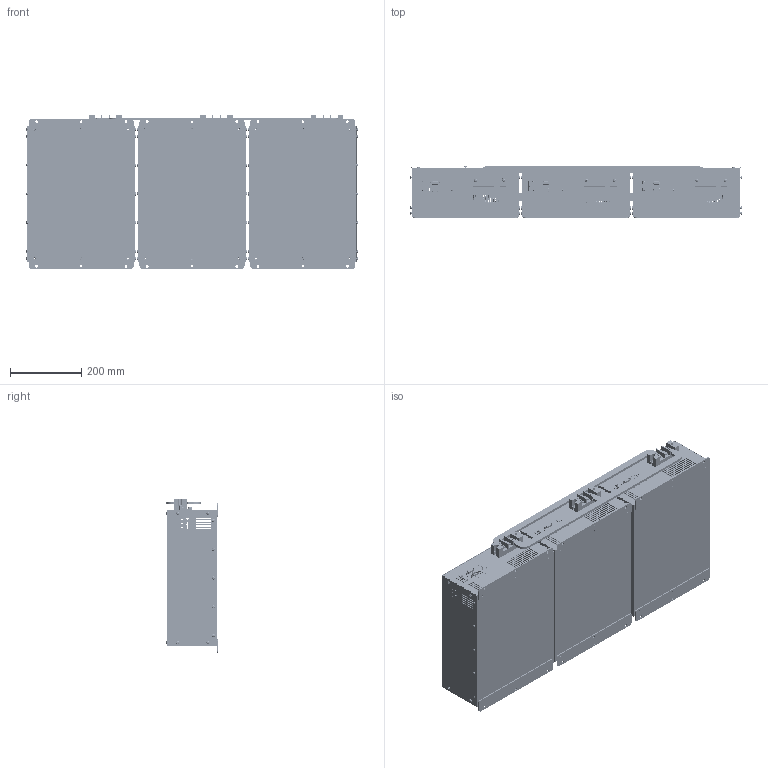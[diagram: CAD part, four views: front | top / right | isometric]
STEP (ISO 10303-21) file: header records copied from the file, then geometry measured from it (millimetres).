
FILE_DESCRIPTION(/* description */ (''),/* implementation_level */ '2;1');
FILE_NAME(/* name */ 'G:\016_배터리 버스바 도면\X4COM_3병렬\BUS-X4-3P-W-L637.stp',/* time_stamp */ '2025-02-26T17:19:16+09:00',/* author */ ('jjang'),/* organization */ (''),/* preprocessor_version */ 'ST-DEVELOPER v18.1',/* originating_system */ 'Autodesk Inventor 2021',/* authorisation */ '');
FILE_SCHEMA (('CONFIG_CONTROL_DESIGN'));
Products named in the file (1): X4COM_3EA_ASS'Y_Shrinkwrap_1
Bounding box: 929.17 x 145.93 x 431 mm (x, y, z)
Volume: 2510476.6 mm3; surface area: 3082634.5 mm2
Topology: 31 solids, 31 shells, 16045 faces, 43431 edges, 28608 vertices
Faces by surface type: plane 7558, bspline 4668, cylinder 3279, torus 360, cone 99, sphere 81
Full cylindrical faces by diameter (mm): 0.61 x81, 0.635 x27, 0.9 x18, 1.397 x27, 2.286 x27, 2.5 x6, 2.8 x18, 2.957 x12, 3 x6, 3.048 x12, 3.6 x36, 3.7 x6, 3.8 x60, 4 x51, 4.3 x36, 4.5 x48, 5 x51, 5.3 x60, 5.4 x6, 5.429 x6, 5.5 x30, 6 x6, 6.082 x3, 6.2 x9, 6.6 x6, 7 x6, 8 x3, 8.8 x30, 9.2 x6, 10 x18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
Entity records: 615947 total; most frequent: CARTESIAN_POINT 220349, ORIENTED_EDGE 86748, DIRECTION 66703, EDGE_CURVE 43374, VERTEX_POINT 28608, LINE 24039, VECTOR 24039, AXIS2_PLACEMENT_3D 21332
